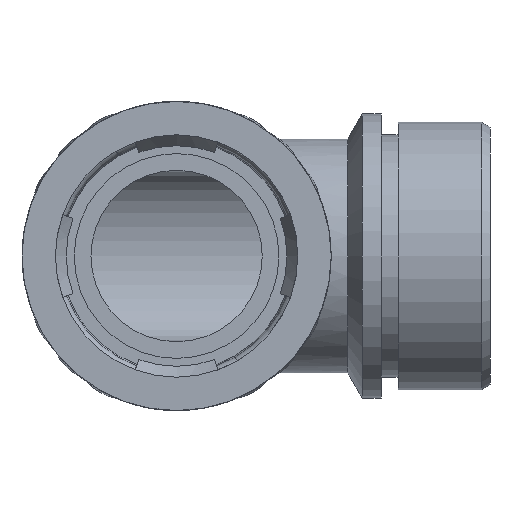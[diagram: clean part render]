
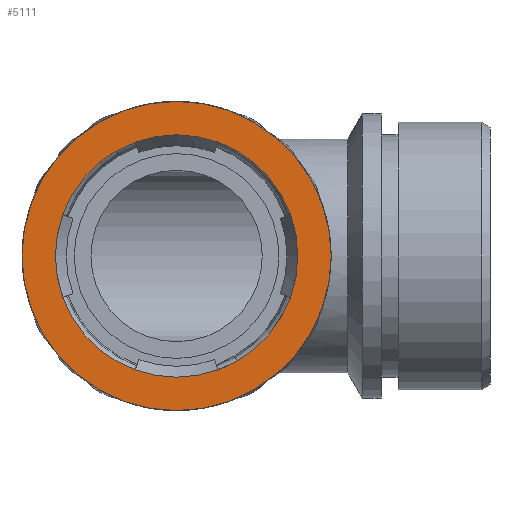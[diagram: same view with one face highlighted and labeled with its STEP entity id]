
A CAD part, front view. The second image highlights one B-rep face of the part: STEP entity #5111.
In plain terms, the highlighted planar face has unit normal (0, -1, 0) as drawn and (0, 0, -1) by its records, which use the part's own axes.
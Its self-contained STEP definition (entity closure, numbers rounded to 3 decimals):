
#1499 = DIRECTION ( 'NONE',  ( 1., 0., 0. ) ) ;
#1500 = DIRECTION ( 'NONE',  ( 0., 0., 1. ) ) ;
#1501 = CARTESIAN_POINT ( 'NONE',  ( 0., 0., 0. ) ) ;
#1518 = AXIS2_PLACEMENT_3D ( 'NONE', #1501, #1500, #1499 ) ;
#1519 = CIRCLE ( 'NONE', #1518, 14.5 ) ;
#4246 = VERTEX_POINT ( 'NONE', #8488 ) ;
#4369 = VERTEX_POINT ( 'NONE', #8538 ) ;
#4411 = EDGE_CURVE ( 'NONE', #4246, #4369, #8739, .T. ) ;
#4853 = VERTEX_POINT ( 'NONE', #9842 ) ;
#4856 = VERTEX_POINT ( 'NONE', #9907 ) ;
#4975 = EDGE_CURVE ( 'NONE', #4856, #4853, #9993, .T. ) ;
#5104 = EDGE_CURVE ( 'NONE', #4369, #4246, #10066, .T. ) ;
#5111 = ADVANCED_FACE ( 'NONE', ( #9997, #10068 ), #10003, .F. ) ;
#5193 = EDGE_LOOP ( 'NONE', ( #5242, #5261 ) ) ;
#5211 = ORIENTED_EDGE ( 'NONE', *, *, #5104, .F. ) ;
#5218 = ORIENTED_EDGE ( 'NONE', *, *, #4411, .F. ) ;
#5221 = EDGE_LOOP ( 'NONE', ( #5211, #5218 ) ) ;
#5242 = ORIENTED_EDGE ( 'NONE', *, *, #5263, .T. ) ;
#5261 = ORIENTED_EDGE ( 'NONE', *, *, #4975, .T. ) ;
#5263 = EDGE_CURVE ( 'NONE', #4853, #4856, #1519, .T. ) ;
#8488 = CARTESIAN_POINT ( 'NONE',  ( 18.5, 0., 0. ) ) ;
#8538 = CARTESIAN_POINT ( 'NONE',  ( -18.5, 0., 0. ) ) ;
#8720 = DIRECTION ( 'NONE',  ( 1., 0., 0. ) ) ;
#8721 = DIRECTION ( 'NONE',  ( 0., 0., 1. ) ) ;
#8722 = CARTESIAN_POINT ( 'NONE',  ( 0., 0., 0. ) ) ;
#8723 = AXIS2_PLACEMENT_3D ( 'NONE', #8722, #8721, #8720 ) ;
#8739 = CIRCLE ( 'NONE', #8723, 18.5 ) ;
#9842 = CARTESIAN_POINT ( 'NONE',  ( 14.5, 0., 0. ) ) ;
#9907 = CARTESIAN_POINT ( 'NONE',  ( -14.5, 0., 0. ) ) ;
#9939 = CARTESIAN_POINT ( 'NONE',  ( 0., 0., 0. ) ) ;
#9953 = AXIS2_PLACEMENT_3D ( 'NONE', #9939, #10009, #9981 ) ;
#9981 = DIRECTION ( 'NONE',  ( 1., 0., 0. ) ) ;
#9993 = CIRCLE ( 'NONE', #9953, 14.5 ) ;
#9997 = FACE_BOUND ( 'NONE', #5193, .T. ) ;
#10003 = PLANE ( 'NONE',  #10067 ) ;
#10009 = DIRECTION ( 'NONE',  ( 0., 0., 1. ) ) ;
#10039 = AXIS2_PLACEMENT_3D ( 'NONE', #10044, #10043, #10042 ) ;
#10042 = DIRECTION ( 'NONE',  ( 1., 0., 0. ) ) ;
#10043 = DIRECTION ( 'NONE',  ( 0., 0., 1. ) ) ;
#10044 = CARTESIAN_POINT ( 'NONE',  ( 0., 0., 0. ) ) ;
#10066 = CIRCLE ( 'NONE', #10039, 18.5 ) ;
#10067 = AXIS2_PLACEMENT_3D ( 'NONE', #10098, #10097, #10096 ) ;
#10068 = FACE_OUTER_BOUND ( 'NONE', #5221, .T. ) ;
#10096 = DIRECTION ( 'NONE',  ( 1., 0., 0. ) ) ;
#10097 = DIRECTION ( 'NONE',  ( 0., 0., 1. ) ) ;
#10098 = CARTESIAN_POINT ( 'NONE',  ( 0., 0., 0. ) ) ;
